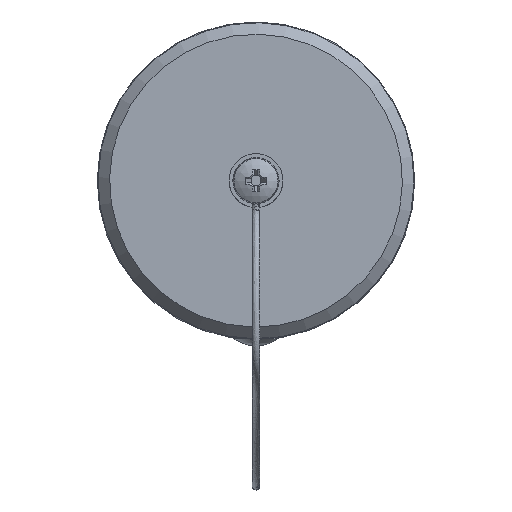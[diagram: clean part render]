
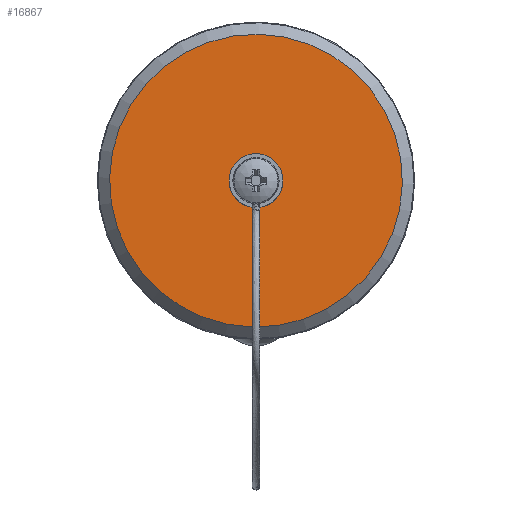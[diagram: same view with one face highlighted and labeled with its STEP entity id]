
A CAD part, top view. The second image highlights one B-rep face of the part: STEP entity #16867.
In plain terms, the highlighted planar face has unit normal (0, 0, 1).
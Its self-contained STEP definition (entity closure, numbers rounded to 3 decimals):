
#1018 = DIRECTION ( 'NONE',  ( 0., 0., -1. ) ) ;
#1247 = CARTESIAN_POINT ( 'NONE',  ( 14.807, 11.906, 45.5 ) ) ;
#1753 = EDGE_CURVE ( 'NONE', #8192, #9525, #23748, .T. ) ;
#2244 = EDGE_LOOP ( 'NONE', ( #11996, #13308 ) ) ;
#2692 = CARTESIAN_POINT ( 'NONE',  ( 0.409, -3.476, 45.5 ) ) ;
#2780 = CARTESIAN_POINT ( 'NONE',  ( 0.159, -3.669, 45.5 ) ) ;
#3045 = CARTESIAN_POINT ( 'NONE',  ( -0.41, -3.476, 45.5 ) ) ;
#3944 = CARTESIAN_POINT ( 'NONE',  ( 0.409, -3.476, 45.5 ) ) ;
#4342 = DIRECTION ( 'NONE',  ( 0.141, 0.99, 0. ) ) ;
#6926 = FACE_OUTER_BOUND ( 'NONE', #17313, .T. ) ;
#7236 = CARTESIAN_POINT ( 'NONE',  ( 0.364, -3.542, 45.5 ) ) ;
#8192 = VERTEX_POINT ( 'NONE', #3944 ) ;
#9235 = PLANE ( 'NONE',  #19283 ) ;
#9525 = VERTEX_POINT ( 'NONE', #3045 ) ;
#11392 = CARTESIAN_POINT ( 'NONE',  ( -0.41, -3.476, 45.5 ) ) ;
#11676 = CARTESIAN_POINT ( 'NONE',  ( 0.302, -3.596, 45.5 ) ) ;
#11737 = CARTESIAN_POINT ( 'NONE',  ( 0., 0., 45.5 ) ) ;
#11996 = ORIENTED_EDGE ( 'NONE', *, *, #18323, .T. ) ;
#12636 = ORIENTED_EDGE ( 'NONE', *, *, #15379, .F. ) ;
#13308 = ORIENTED_EDGE ( 'NONE', *, *, #1753, .T. ) ;
#15379 = EDGE_CURVE ( 'NONE', #28606, #28606, #21597, .T. ) ;
#16348 = DIRECTION ( 'NONE',  ( 0.779, 0.627, 0. ) ) ;
#16721 = CARTESIAN_POINT ( 'NONE',  ( 0., 0., 45.5 ) ) ;
#16867 = ADVANCED_FACE ( 'NONE', ( #6926, #25353 ), #9235, .F. ) ;
#17313 = EDGE_LOOP ( 'NONE', ( #12636 ) ) ;
#17594 = DIRECTION ( 'NONE',  ( 0., 0., -1. ) ) ;
#18162 = CARTESIAN_POINT ( 'NONE',  ( -0.364, -3.541, 45.5 ) ) ;
#18323 = EDGE_CURVE ( 'NONE', #9525, #8192, #25118, .T. ) ;
#18402 = AXIS2_PLACEMENT_3D ( 'NONE', #19827, #17594, #4342 ) ;
#19283 = AXIS2_PLACEMENT_3D ( 'NONE', #11737, #22833, #24774 ) ;
#19827 = CARTESIAN_POINT ( 'NONE',  ( 0., 0., 45.5 ) ) ;
#21597 = CIRCLE ( 'NONE', #24328, 19. ) ;
#22589 = CARTESIAN_POINT ( 'NONE',  ( -0.08, -3.69, 45.5 ) ) ;
#22666 = CARTESIAN_POINT ( 'NONE',  ( -0.16, -3.67, 45.5 ) ) ;
#22833 = DIRECTION ( 'NONE',  ( 0., 0., -1. ) ) ;
#23748 = B_SPLINE_CURVE_WITH_KNOTS ( 'NONE', 3,
 ( #2692, #7236, #11676, #2780, #27043, #22589, #22666, #27219, #18162, #11392 ),
 .UNSPECIFIED., .F., .F.,
 ( 4, 2, 2, 2, 4 ),
 ( 0., 0.001, 0.001, 0.001, 0.001 ),
 .UNSPECIFIED. ) ;
#24328 = AXIS2_PLACEMENT_3D ( 'NONE', #16721, #1018, #16348 ) ;
#24774 = DIRECTION ( 'NONE',  ( 0., -1., 0. ) ) ;
#25118 = CIRCLE ( 'NONE', #18402, 3.5 ) ;
#25353 = FACE_BOUND ( 'NONE', #2244, .T. ) ;
#27043 = CARTESIAN_POINT ( 'NONE',  ( 0.079, -3.688, 45.5 ) ) ;
#27219 = CARTESIAN_POINT ( 'NONE',  ( -0.302, -3.595, 45.5 ) ) ;
#28606 = VERTEX_POINT ( 'NONE', #1247 ) ;
